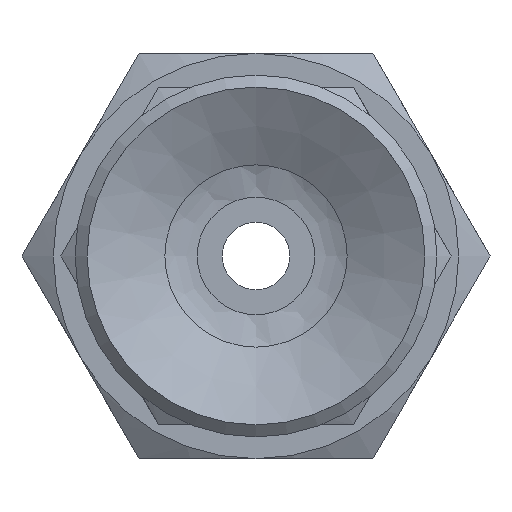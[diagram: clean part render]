
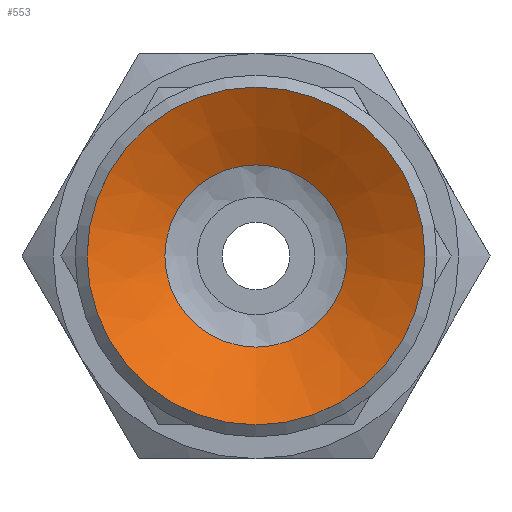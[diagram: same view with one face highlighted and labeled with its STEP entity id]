
A CAD part, front view. The second image highlights one B-rep face of the part: STEP entity #553.
In plain terms, the highlighted conical face has half-angle 61.39 degrees and reference radius 2.25 mm.
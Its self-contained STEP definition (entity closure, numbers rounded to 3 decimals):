
#553=ADVANCED_FACE('',(#817,#818),#819,.F.);
#817=FACE_BOUND('',#1148,.T.);
#818=FACE_OUTER_BOUND('',#1149,.T.);
#819=CONICAL_SURFACE('',#1150,2.25,1.071);
#1148=EDGE_LOOP('',(#1843));
#1149=EDGE_LOOP('',(#1844));
#1150=AXIS2_PLACEMENT_3D('',#1845,#1846,#1847);
#1843=ORIENTED_EDGE('',*,*,#2140,.T.);
#1844=ORIENTED_EDGE('',*,*,#2141,.T.);
#1845=CARTESIAN_POINT('',(0.0,1.5,0.0));
#1846=DIRECTION('',(-0.0,-1.0,0.));
#1847=DIRECTION('',(0.0,0.,-1.0));
#2140=EDGE_CURVE('',#2469,#2469,#2470,.T.);
#2141=EDGE_CURVE('',#2471,#2471,#2472,.T.);
#2469=VERTEX_POINT('',#3169);
#2470=CIRCLE('',#3170,2.698);
#2471=VERTEX_POINT('',#3171);
#2472=CIRCLE('',#3172,5.);
#3169=CARTESIAN_POINT('',(0.0,1.256,-2.698));
#3170=AXIS2_PLACEMENT_3D('',#3508,#3509,#3510);
#3171=CARTESIAN_POINT('',(0.0,0.,-5.));
#3172=AXIS2_PLACEMENT_3D('',#3511,#3512,#3513);
#3508=CARTESIAN_POINT('',(0.0,1.256,0.0));
#3509=DIRECTION('',(0.0,1.0,0.));
#3510=DIRECTION('',(0.0,0.,-1.0));
#3511=CARTESIAN_POINT('',(0.0,0.0,0.0));
#3512=DIRECTION('',(0.0,-1.0,0.));
#3513=DIRECTION('',(0.0,0.,-1.0));
